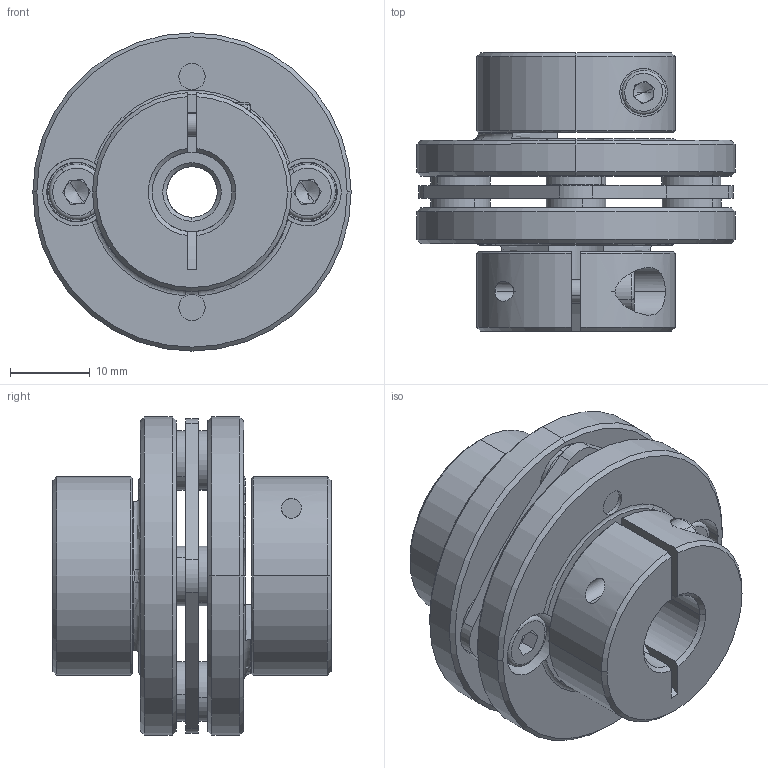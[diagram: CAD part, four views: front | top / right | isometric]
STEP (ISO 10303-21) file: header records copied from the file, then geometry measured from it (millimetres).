
FILE_DESCRIPTION (( 'STEP AP203' ), '1' );
FILE_NAME ('LE1-B-D40L35-6.35-10.STEP', '2021-11-01T02:05:57', ( '' ), ( '' ), 'SwSTEP 2.0', 'SolidWorks 2018', '' );
FILE_SCHEMA (( 'CONFIG_CONTROL_DESIGN' ));
Length unit declared in the file: millimetre
Products named in the file (1): LE1-B-D40L35-6.35-10
Bounding box: 40 x 35 x 40 mm (x, y, z)
Volume: 20282.9 mm3; surface area: 12769.1 mm2
Topology: 1 solids, 13 shells, 423 faces, 1021 edges, 630 vertices
Faces by surface type: cylinder 149, plane 140, cone 114, torus 18, bspline 2
Entity records: 12768 total; most frequent: CARTESIAN_POINT 2461, DIRECTION 2335, ORIENTED_EDGE 2018, EDGE_CURVE 1009, AXIS2_PLACEMENT_3D 952, VERTEX_POINT 630, CIRCLE 530, EDGE_LOOP 491
